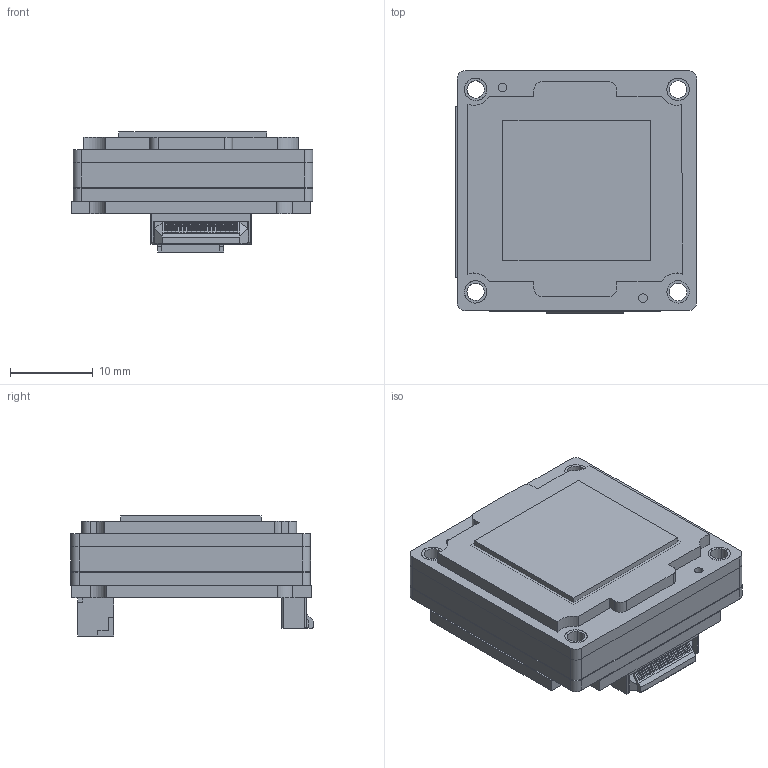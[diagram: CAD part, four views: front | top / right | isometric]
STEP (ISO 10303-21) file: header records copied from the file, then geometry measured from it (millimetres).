
FILE_DESCRIPTION (( 'STEP AP203' ), '1' );
FILE_NAME ('BFS-U3-31S4M(C)-BD2.STEP', '2020-04-27T18:57:58', ( 'FLIR IT' ), ( 'FLIR SYSTEMS' ), 'SwSTEP 2.0', 'SolidWorks 2018', '' );
FILE_SCHEMA (( 'CONFIG_CONTROL_DESIGN' ));
Length unit declared in the file: millimetre
Products named in the file (1): BFS-U3-31S4M(C)-BD2
Bounding box: 29.21 x 29.3 x 14.52 mm (x, y, z)
Volume: 8459.5 mm3; surface area: 11774.8 mm2
Topology: 13 solids, 13 shells, 1108 faces, 3045 edges, 2012 vertices
Faces by surface type: plane 874, cylinder 226, torus 4, bspline 4
Entity records: 35577 total; most frequent: CARTESIAN_POINT 6962, ORIENTED_EDGE 6090, DIRECTION 5617, EDGE_CURVE 3045, VECTOR 2567, LINE 2567, VERTEX_POINT 2012, AXIS2_PLACEMENT_3D 1525
